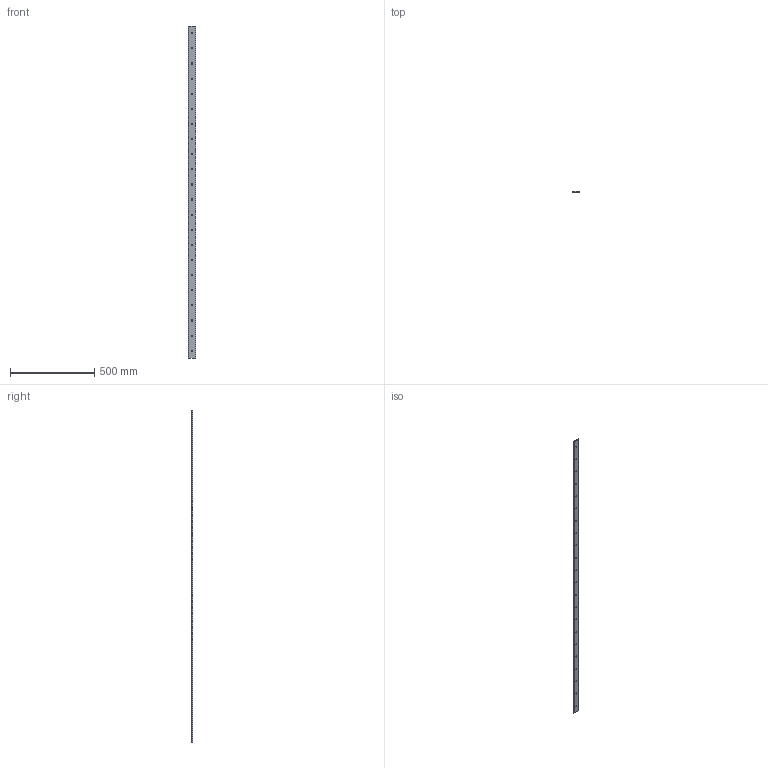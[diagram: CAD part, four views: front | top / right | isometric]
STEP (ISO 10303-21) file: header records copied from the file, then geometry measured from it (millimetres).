
FILE_DESCRIPTION(('STEP AP203'),'1');
FILE_NAME('slide_m44l1976p1.stp','2022-07-01T06:20:29',('TraceParts'),('TraceParts S.A.'),'Spatial InterOp 3D',' ',' ');
FILE_SCHEMA(('CONFIG_CONTROL_DESIGN'));
Length unit declared in the file: millimetre
Products named in the file (1): 1
Bounding box: 43.68 x 6.28 x 1976 mm (x, y, z)
Volume: 494026.1 mm3; surface area: 183952.3 mm2
Topology: 1 solids, 1 shells, 56 faces, 162 edges, 108 vertices
Faces by surface type: cylinder 48, plane 8
Entity records: 2034 total; most frequent: DIRECTION 372, CARTESIAN_POINT 327, ORIENTED_EDGE 324, EDGE_CURVE 162, AXIS2_PLACEMENT_3D 153, VERTEX_POINT 108, EDGE_LOOP 100, CIRCLE 96
